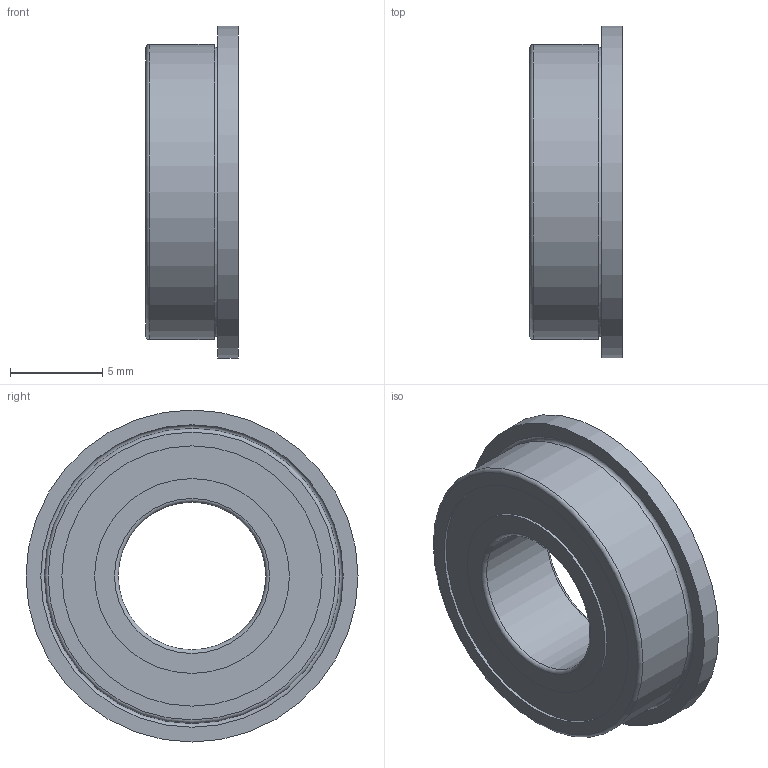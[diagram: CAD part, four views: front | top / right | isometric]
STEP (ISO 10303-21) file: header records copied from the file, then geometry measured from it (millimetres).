
FILE_DESCRIPTION(('FreeCAD Model'),'2;1');
FILE_NAME('Open CASCADE Shape Model','2021-04-30T14:59:57',(''),(''), 'Open CASCADE STEP processor 7.5','FreeCAD','Unknown');
FILE_SCHEMA(('AUTOMOTIVE_DESIGN { 1 0 10303 214 1 1 1 1 }'));
Length unit declared in the file: millimetre
Products named in the file (1): _FL688ZZ
Bounding box: 5 x 18 x 18 mm (x, y, z)
Volume: 785.1 mm3; surface area: 835.4 mm2
Topology: 1 solids, 1 shells, 18 faces, 29 edges, 18 vertices
Faces by surface type: plane 7, cylinder 7, torus 4
Full cylindrical faces by diameter (mm): 8 x1, 10.56 x2, 14.112 x2, 16 x1, 18 x1
Entity records: 855 total; most frequent: CARTESIAN_POINT 206, DIRECTION 124, ORIENTED_EDGE 58, PCURVE 58, DEFINITIONAL_REPRESENTATION 58, LINE 44, VECTOR 44, AXIS2_PLACEMENT_3D 37
